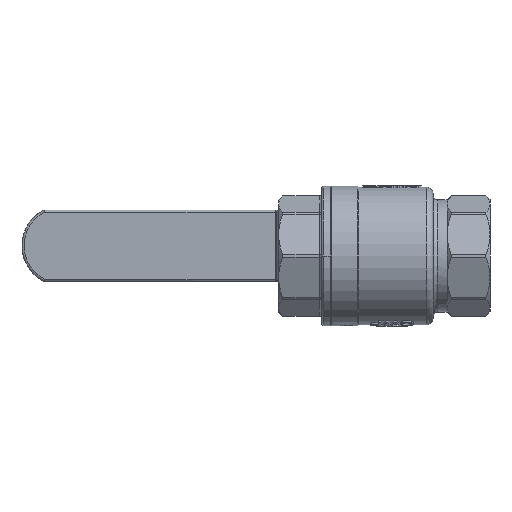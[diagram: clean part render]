
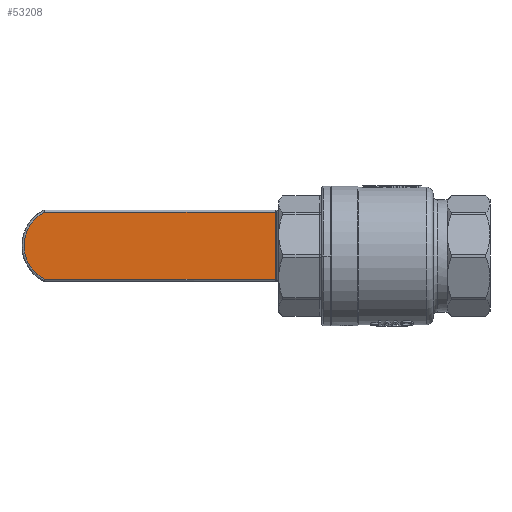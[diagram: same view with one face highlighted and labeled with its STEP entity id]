
A CAD part, front view. The second image highlights one B-rep face of the part: STEP entity #53208.
In plain terms, the highlighted planar face has unit normal (0, -1, 0).
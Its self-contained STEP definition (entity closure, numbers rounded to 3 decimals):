
#10187 = ORIENTED_EDGE ( 'NONE', *, *, #12299, .T. ) ;
#11092 = LINE ( 'NONE', #105598, #86256 ) ;
#12299 = EDGE_CURVE ( 'NONE', #122601, #25204, #78293, .T. ) ;
#14864 = VECTOR ( 'NONE', #107910, 1000. ) ;
#16110 = CARTESIAN_POINT ( 'NONE',  ( -10.036, -5., -16.45 ) ) ;
#20679 = ORIENTED_EDGE ( 'NONE', *, *, #126712, .T. ) ;
#24029 = EDGE_LOOP ( 'NONE', ( #31034, #105789, #10187, #20679 ) ) ;
#24412 = PLANE ( 'NONE',  #96166 ) ;
#25204 = VERTEX_POINT ( 'NONE', #90197 ) ;
#28759 = DIRECTION ( 'NONE',  ( -1., 0., 0. ) ) ;
#31034 = ORIENTED_EDGE ( 'NONE', *, *, #73916, .T. ) ;
#36739 = CARTESIAN_POINT ( 'NONE',  ( -123.134, -5., 16.45 ) ) ;
#38021 = VECTOR ( 'NONE', #28759, 1000. ) ;
#53208 = ADVANCED_FACE ( 'NONE', ( #93121 ), #24412, .F. ) ;
#54975 = CARTESIAN_POINT ( 'NONE',  ( -123.134, -5., -16.45 ) ) ;
#59535 = LINE ( 'NONE', #97740, #38021 ) ;
#63045 = CARTESIAN_POINT ( 'NONE',  ( -18.5, -5., 0. ) ) ;
#63431 = AXIS2_PLACEMENT_3D ( 'NONE', #63045, #100761, #91764 ) ;
#67061 = DIRECTION ( 'NONE',  ( 1., 0., 0. ) ) ;
#73677 = DIRECTION ( 'NONE',  ( 0., 1., 0. ) ) ;
#73916 = EDGE_CURVE ( 'NONE', #76738, #117555, #126816, .T. ) ;
#74098 = DIRECTION ( 'NONE',  ( 0., 0., 1. ) ) ;
#76738 = VERTEX_POINT ( 'NONE', #36739 ) ;
#78293 = CIRCLE ( 'NONE', #63431, 18.5 ) ;
#86256 = VECTOR ( 'NONE', #67061, 1000. ) ;
#90197 = CARTESIAN_POINT ( 'NONE',  ( -10.036, -5., 16.45 ) ) ;
#91764 = DIRECTION ( 'NONE',  ( 0., 0., 1. ) ) ;
#93001 = CARTESIAN_POINT ( 'NONE',  ( -124., -5., 16.45 ) ) ;
#93121 = FACE_OUTER_BOUND ( 'NONE', #24029, .T. ) ;
#96166 = AXIS2_PLACEMENT_3D ( 'NONE', #93001, #73677, #74098 ) ;
#96784 = CARTESIAN_POINT ( 'NONE',  ( -123.134, -5., -17.45 ) ) ;
#97740 = CARTESIAN_POINT ( 'NONE',  ( -123.567, -5., 16.45 ) ) ;
#100761 = DIRECTION ( 'NONE',  ( 0., -1., 0. ) ) ;
#104115 = EDGE_CURVE ( 'NONE', #117555, #122601, #11092, .T. ) ;
#105598 = CARTESIAN_POINT ( 'NONE',  ( -124., -5., -16.45 ) ) ;
#105789 = ORIENTED_EDGE ( 'NONE', *, *, #104115, .T. ) ;
#107910 = DIRECTION ( 'NONE',  ( 0., 0., -1. ) ) ;
#117555 = VERTEX_POINT ( 'NONE', #54975 ) ;
#122601 = VERTEX_POINT ( 'NONE', #16110 ) ;
#126712 = EDGE_CURVE ( 'NONE', #25204, #76738, #59535, .T. ) ;
#126816 = LINE ( 'NONE', #96784, #14864 ) ;
